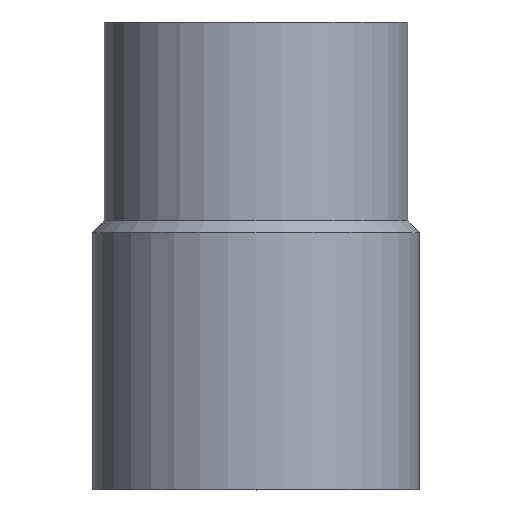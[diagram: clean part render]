
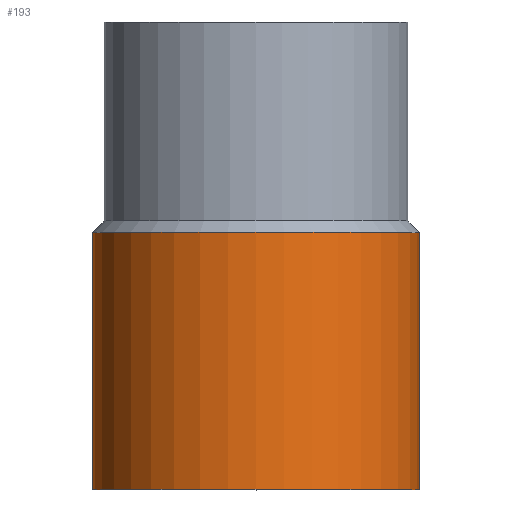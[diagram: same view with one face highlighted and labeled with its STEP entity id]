
A CAD part, top view. The second image highlights one B-rep face of the part: STEP entity #193.
In plain terms, the highlighted cylindrical face has radius 21 mm (diameter 42 mm), a full revolution.
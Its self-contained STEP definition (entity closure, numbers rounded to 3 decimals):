
#21=LINE('',#364,#28);
#28=VECTOR('',#304,21.);
#34=CYLINDRICAL_SURFACE('',#239,21.);
#46=FACE_OUTER_BOUND('',#59,.T.);
#59=EDGE_LOOP('',(#165,#166,#167,#168,#169,#170));
#76=CIRCLE('',#237,21.);
#77=CIRCLE('',#238,21.);
#78=CIRCLE('',#240,21.);
#79=CIRCLE('',#241,21.);
#96=VERTEX_POINT('',#355);
#97=VERTEX_POINT('',#356);
#98=VERTEX_POINT('',#360);
#99=VERTEX_POINT('',#361);
#120=EDGE_CURVE('',#96,#97,#76,.T.);
#121=EDGE_CURVE('',#97,#96,#77,.T.);
#122=EDGE_CURVE('',#98,#99,#78,.T.);
#123=EDGE_CURVE('',#99,#98,#79,.T.);
#124=EDGE_CURVE('',#99,#97,#21,.T.);
#165=ORIENTED_EDGE('',*,*,#122,.F.);
#166=ORIENTED_EDGE('',*,*,#123,.F.);
#167=ORIENTED_EDGE('',*,*,#124,.T.);
#168=ORIENTED_EDGE('',*,*,#121,.T.);
#169=ORIENTED_EDGE('',*,*,#120,.T.);
#170=ORIENTED_EDGE('',*,*,#124,.F.);
#193=ADVANCED_FACE('',(#46),#34,.T.);
#237=AXIS2_PLACEMENT_3D('',#357,#294,#295);
#238=AXIS2_PLACEMENT_3D('',#358,#296,#297);
#239=AXIS2_PLACEMENT_3D('',#359,#298,#299);
#240=AXIS2_PLACEMENT_3D('',#362,#300,#301);
#241=AXIS2_PLACEMENT_3D('',#363,#302,#303);
#294=DIRECTION('center_axis',(0.,1.,0.));
#295=DIRECTION('ref_axis',(-1.,0.,0.));
#296=DIRECTION('center_axis',(0.,1.,0.));
#297=DIRECTION('ref_axis',(-1.,0.,0.));
#298=DIRECTION('center_axis',(0.,1.,0.));
#299=DIRECTION('ref_axis',(-1.,0.,0.));
#300=DIRECTION('center_axis',(0.,1.,0.));
#301=DIRECTION('ref_axis',(-1.,0.,0.));
#302=DIRECTION('center_axis',(0.,1.,0.));
#303=DIRECTION('ref_axis',(-1.,0.,0.));
#304=DIRECTION('',(0.,-1.,0.));
#355=CARTESIAN_POINT('',(-21.,0.,0.));
#356=CARTESIAN_POINT('',(21.,0.,0.));
#357=CARTESIAN_POINT('Origin',(0.,0.,0.));
#358=CARTESIAN_POINT('Origin',(0.,0.,0.));
#359=CARTESIAN_POINT('Origin',(0.,16.5,0.));
#360=CARTESIAN_POINT('',(-21.,33.,0.));
#361=CARTESIAN_POINT('',(21.,33.,0.));
#362=CARTESIAN_POINT('Origin',(0.,33.,0.));
#363=CARTESIAN_POINT('Origin',(0.,33.,0.));
#364=CARTESIAN_POINT('',(21.,16.5,0.));
